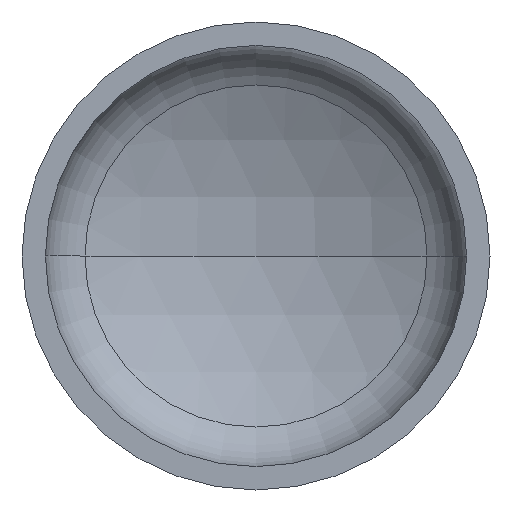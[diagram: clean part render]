
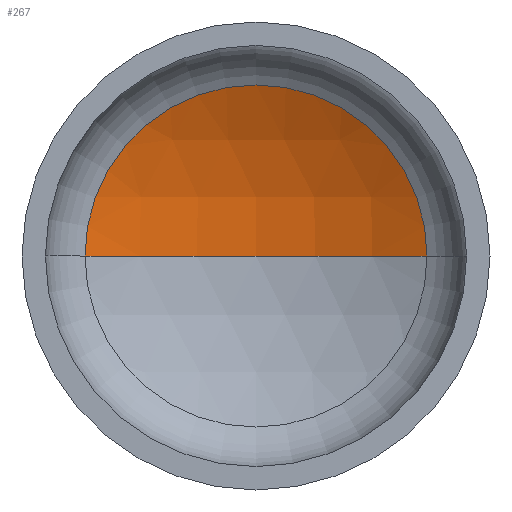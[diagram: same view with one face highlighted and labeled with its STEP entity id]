
A CAD part, front view. The second image highlights one B-rep face of the part: STEP entity #267.
In plain terms, the highlighted spherical face has radius 720 mm.
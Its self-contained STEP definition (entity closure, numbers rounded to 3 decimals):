
#4 = AXIS2_PLACEMENT_3D ( 'NONE', #121, #373, #299 ) ;
#14 = AXIS2_PLACEMENT_3D ( 'NONE', #183, #31, #186 ) ;
#18 = EDGE_LOOP ( 'NONE', ( #88, #112, #61 ) ) ;
#31 = DIRECTION ( 'NONE',  ( 0., 0., -1. ) ) ;
#39 = AXIS2_PLACEMENT_3D ( 'NONE', #324, #234, #386 ) ;
#41 = AXIS2_PLACEMENT_3D ( 'NONE', #201, #256, #236 ) ;
#52 = VERTEX_POINT ( 'NONE', #366 ) ;
#61 = ORIENTED_EDGE ( 'NONE', *, *, #91, .T. ) ;
#88 = ORIENTED_EDGE ( 'NONE', *, *, #350, .F. ) ;
#91 = EDGE_CURVE ( 'NONE', #123, #52, #204, .T. ) ;
#99 = VERTEX_POINT ( 'NONE', #295 ) ;
#112 = ORIENTED_EDGE ( 'NONE', *, *, #122, .T. ) ;
#121 = CARTESIAN_POINT ( 'NONE',  ( 0., -375.922, 0. ) ) ;
#122 = EDGE_CURVE ( 'NONE', #99, #123, #377, .T. ) ;
#123 = VERTEX_POINT ( 'NONE', #322 ) ;
#170 = CIRCLE ( 'NONE', #4, 720. ) ;
#183 = CARTESIAN_POINT ( 'NONE',  ( 0., -375.922, 0. ) ) ;
#186 = DIRECTION ( 'NONE',  ( -1., 0., 0. ) ) ;
#201 = CARTESIAN_POINT ( 'NONE',  ( 0., 264.533, 0. ) ) ;
#204 = CIRCLE ( 'NONE', #41, 328.966 ) ;
#234 = DIRECTION ( 'NONE',  ( 0., 0., -1. ) ) ;
#236 = DIRECTION ( 'NONE',  ( 1., 0., 0. ) ) ;
#248 = SPHERICAL_SURFACE ( 'NONE', #14, 720. ) ;
#256 = DIRECTION ( 'NONE',  ( 0., -1., 0. ) ) ;
#267 = ADVANCED_FACE ( 'NONE', ( #363 ), #248, .F. ) ;
#295 = CARTESIAN_POINT ( 'NONE',  ( 0., 344.078, 0. ) ) ;
#299 = DIRECTION ( 'NONE',  ( 1., 0., 0. ) ) ;
#322 = CARTESIAN_POINT ( 'NONE',  ( 328.966, 264.533, 0. ) ) ;
#324 = CARTESIAN_POINT ( 'NONE',  ( 0., -375.922, 0. ) ) ;
#350 = EDGE_CURVE ( 'NONE', #99, #52, #170, .T. ) ;
#363 = FACE_OUTER_BOUND ( 'NONE', #18, .T. ) ;
#366 = CARTESIAN_POINT ( 'NONE',  ( -328.966, 264.533, 0. ) ) ;
#373 = DIRECTION ( 'NONE',  ( 0., 0., 1. ) ) ;
#377 = CIRCLE ( 'NONE', #39, 720. ) ;
#386 = DIRECTION ( 'NONE',  ( -1., 0., 0. ) ) ;
